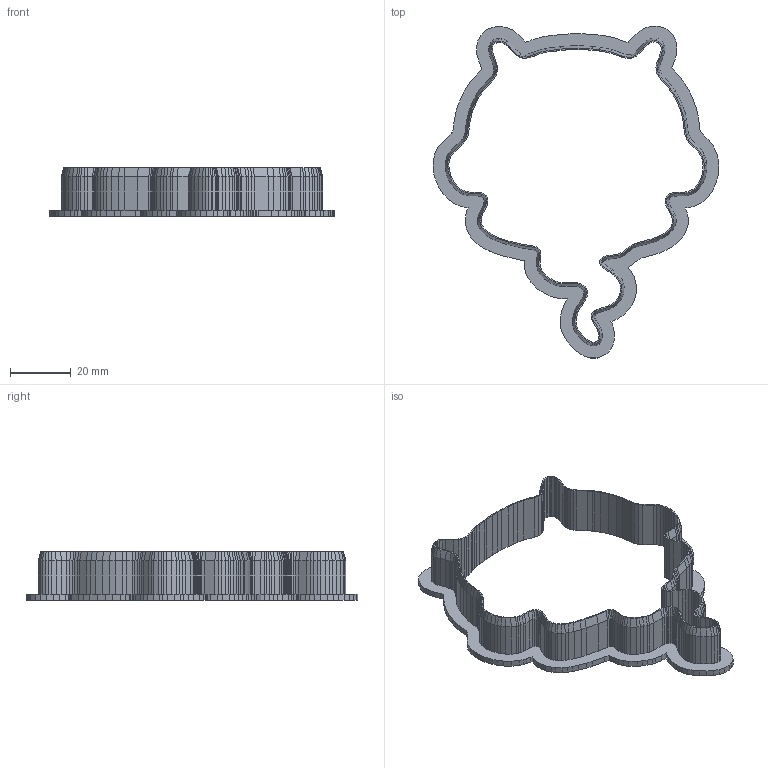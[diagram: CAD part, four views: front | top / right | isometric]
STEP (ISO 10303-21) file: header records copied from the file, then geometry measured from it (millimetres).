
FILE_DESCRIPTION(('Open CASCADE Model'),'2;1');
FILE_NAME('Open CASCADE Shape Model','2026-10-27T22:13:51',('Author'),( 'Open CASCADE'),'Open CASCADE STEP processor 7.9','Open CASCADE 7.9' ,'Unknown');
FILE_SCHEMA(('AUTOMOTIVE_DESIGN { 1 0 10303 214 1 1 1 1 }'));
Products named in the file (1): Open CASCADE STEP translator 7.9 6
Bounding box: 94 x 109.25 x 16 mm (x, y, z)
Volume: 8906.1 mm3; surface area: 14247.3 mm2
Topology: 1 solids, 1 shells, 984 faces, 2681 edges, 1700 vertices
Faces by surface type: plane 722, bspline 262
Entity records: 63178 total; most frequent: CARTESIAN_POINT 13252, DIRECTION 7751, LINE 6305, VECTOR 6305, ORIENTED_EDGE 5362, PCURVE 5362, DEFINITIONAL_REPRESENTATION 5362, EDGE_CURVE 2681
